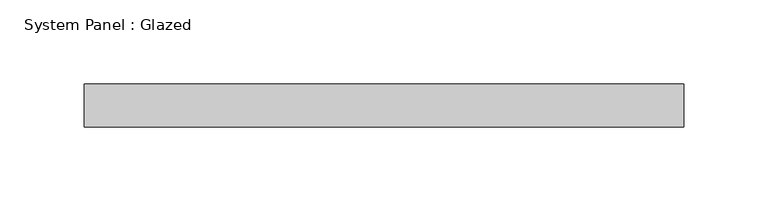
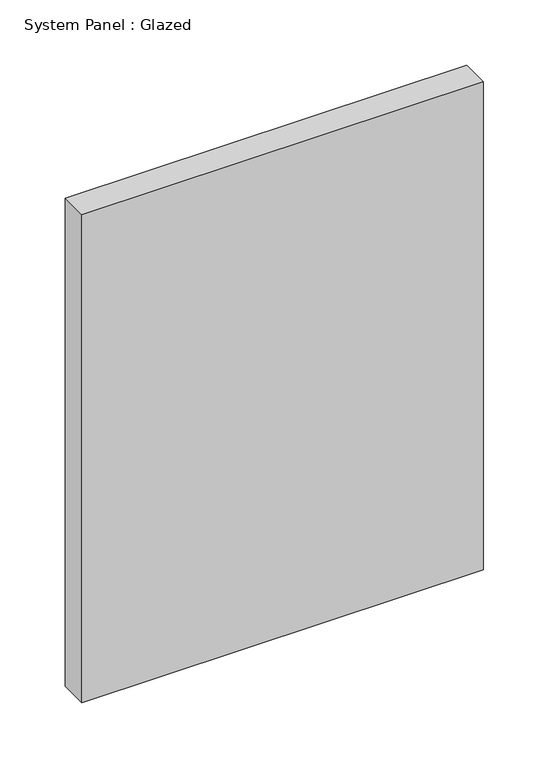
"""IFC4 building model written with IfcOpenShell, lengths in millimetres: plate geometry, System Panel : Glazed."""

from ifc_helpers import new_model, si_unit, origin, origin_with_axes, place, context, project, spatial, polyline, outline, extrude, source, transform, mapped, element, save


def system_panel_glazed_a697b581(model_context):
    return source(origin(), model_context, "Body", "SweptSolid", [
        extrude(outline(polyline([(177.8636406, 19.05), (-177.8636406, 19.05), (-177.8636406, 44.45), (177.8636406, 44.45), (177.8636406, 19.05)])), origin_with_axes(), (0.0, 0.0, 1.0), 457.2),
    ])


if __name__ == "__main__":
    model = new_model("IFC4")
    model_context = context("Model", 3, world=origin())
    ifc_project = project(units=[si_unit("LENGTHUNIT", "METRE", prefix="MILLI")], contexts=[model_context])
    site = spatial("IfcSite", under=ifc_project)
    building = spatial("IfcBuilding", under=site)
    placement = place(None, origin())
    system_panel_glazed_shape = system_panel_glazed_a697b581(model_context)
    element("IfcPlate", 1, ObjectType="System Panel : Glazed", at=placement, inside=building, context=model_context, shape_type="MappedRepresentation", body=[
        mapped(system_panel_glazed_shape, transform((0.0, 0.0, 0.0), x_axis=(1.0, 0.0, 0.0), y_axis=(0.0, 1.0, 0.0), z_axis=(0.0, 0.0, 1.0))),
    ])
    save(model, "model.ifc")
